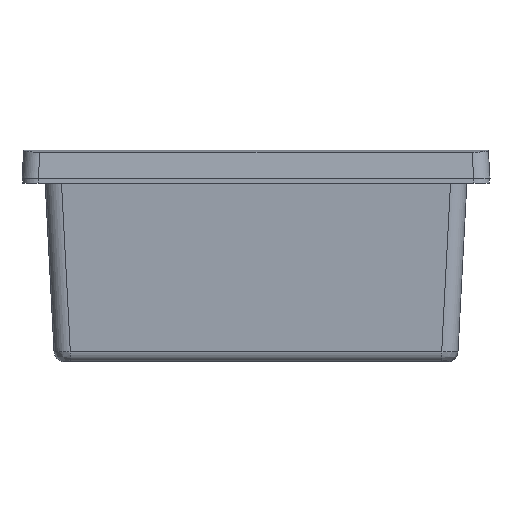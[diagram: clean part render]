
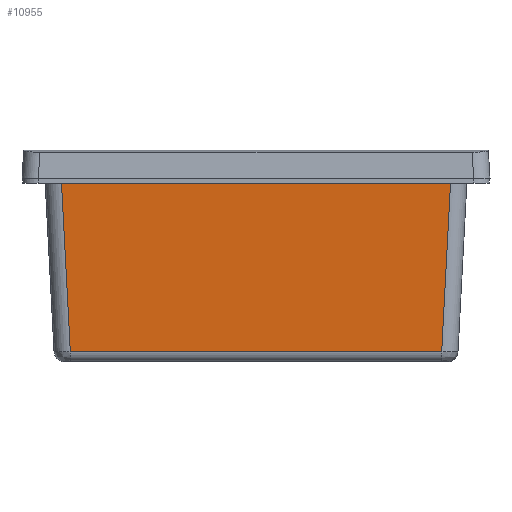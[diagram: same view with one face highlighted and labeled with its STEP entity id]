
A CAD part, left-side view. The second image highlights one B-rep face of the part: STEP entity #10955.
In plain terms, the highlighted planar face has unit normal (-0.999, 0, -0.052).
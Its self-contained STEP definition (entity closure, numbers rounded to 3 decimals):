
#1787=DIRECTION('',(0.,-1.,0.));
#1788=VECTOR('',#1787,68.244);
#1789=CARTESIAN_POINT('',(-63.068,34.122,
-31.805));
#1790=LINE('',#1789,#1788);
#1804=CARTESIAN_POINT('',(-63.068,34.122,
-31.805));
#2905=CARTESIAN_POINT('',(-64.85,35.904,2.2));
#2907=DIRECTION('',(0.,1.,0.));
#2908=VECTOR('',#2907,71.808);
#2909=CARTESIAN_POINT('',(-64.85,-35.904,
2.2));
#2910=LINE('',#2909,#2908);
#2911=DIRECTION('',(0.052,0.052,-0.997));
#2912=VECTOR('',#2911,34.098);
#2913=CARTESIAN_POINT('',(-64.85,-35.904,
2.2));
#2914=LINE('',#2913,#2912);
#2915=DIRECTION('',(-0.052,0.052,0.997));
#2916=VECTOR('',#2915,34.098);
#2917=CARTESIAN_POINT('',(-63.068,34.122,
-31.805));
#2918=LINE('',#2917,#2916);
#5911=VERTEX_POINT('',#1804);
#5912=CARTESIAN_POINT('',(-63.068,-34.122,
-31.805));
#5913=VERTEX_POINT('',#5912);
#6955=VERTEX_POINT('',#2905);
#6956=CARTESIAN_POINT('',(-64.85,-35.904,
2.2));
#6957=VERTEX_POINT('',#6956);
#10943=CARTESIAN_POINT('',(-64.85,-42.091,2.2));
#10944=DIRECTION('',(-0.999,0.,-0.052));
#10945=DIRECTION('',(0.,1.,0.));
#10946=AXIS2_PLACEMENT_3D('',#10943,#10944,#10945);
#10947=PLANE('',#10946);
#10948=ORIENTED_EDGE('',*,*,#9789,.F.);
#10950=ORIENTED_EDGE('',*,*,#10949,.T.);
#10951=ORIENTED_EDGE('',*,*,#9312,.F.);
#10952=ORIENTED_EDGE('',*,*,#10936,.T.);
#10953=EDGE_LOOP('',(#10948,#10950,#10951,#10952));
#10954=FACE_OUTER_BOUND('',#10953,.F.);
#10955=ADVANCED_FACE('',(#10954),#10947,.T.);
#9312=EDGE_CURVE('',#5911,#5913,#1790,.T.);
#9789=EDGE_CURVE('',#6957,#6955,#2910,.T.);
#10936=EDGE_CURVE('',#5911,#6955,#2918,.T.);
#10949=EDGE_CURVE('',#6957,#5913,#2914,.T.);
